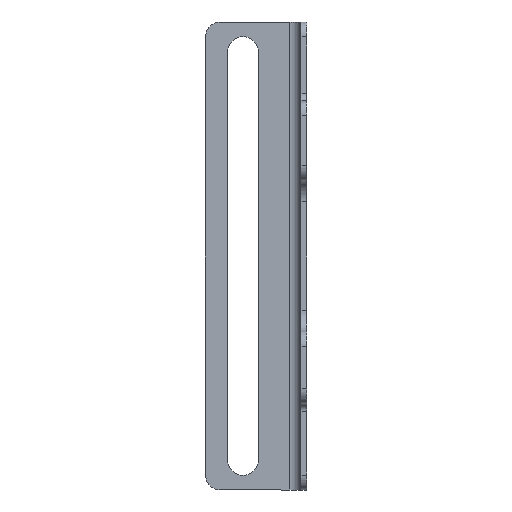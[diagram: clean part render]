
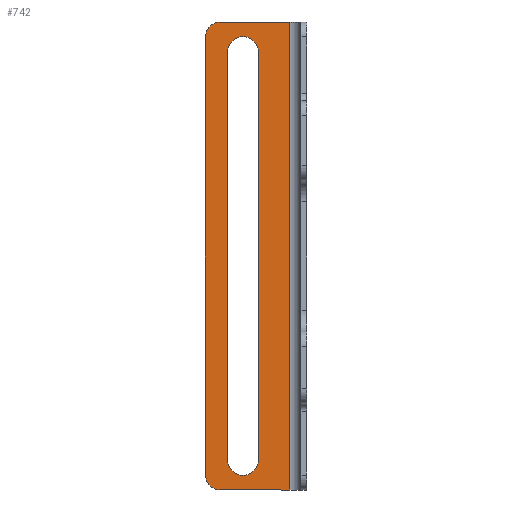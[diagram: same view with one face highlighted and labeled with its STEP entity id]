
A CAD part, left-side view. The second image highlights one B-rep face of the part: STEP entity #742.
In plain terms, the highlighted planar face has unit normal (-1, 0, 0).
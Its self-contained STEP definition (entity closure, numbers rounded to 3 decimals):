
#20 = AXIS2_PLACEMENT_3D ( 'NONE', #265, #1033, #370 ) ;
#25 = EDGE_CURVE ( 'NONE', #1348, #1026, #1075, .T. ) ;
#84 = LINE ( 'NONE', #568, #1228 ) ;
#102 = VERTEX_POINT ( 'NONE', #984 ) ;
#118 = VERTEX_POINT ( 'NONE', #874 ) ;
#126 = DIRECTION ( 'NONE',  ( -1., 0., 0. ) ) ;
#135 = CARTESIAN_POINT ( 'NONE',  ( 28.5, 23., 125. ) ) ;
#141 = EDGE_CURVE ( 'NONE', #1211, #118, #200, .T. ) ;
#165 = VECTOR ( 'NONE', #1116, 1000. ) ;
#195 = VERTEX_POINT ( 'NONE', #679 ) ;
#200 = CIRCLE ( 'NONE', #799, 4. ) ;
#222 = ORIENTED_EDGE ( 'NONE', *, *, #343, .F. ) ;
#232 = DIRECTION ( 'NONE',  ( 0., 0., -1. ) ) ;
#248 = VERTEX_POINT ( 'NONE', #1395 ) ;
#251 = VECTOR ( 'NONE', #689, 1000. ) ;
#265 = CARTESIAN_POINT ( 'NONE',  ( 28.5, 23., 121. ) ) ;
#309 = DIRECTION ( 'NONE',  ( -1., 0., 0. ) ) ;
#312 = DIRECTION ( 'NONE',  ( -1., 0., 0. ) ) ;
#324 = CIRCLE ( 'NONE', #1170, 4.1 ) ;
#343 = EDGE_CURVE ( 'NONE', #102, #822, #324, .T. ) ;
#355 = EDGE_CURVE ( 'NONE', #195, #942, #607, .T. ) ;
#365 = FACE_OUTER_BOUND ( 'NONE', #1397, .T. ) ;
#370 = DIRECTION ( 'NONE',  ( 0., 1., 0. ) ) ;
#373 = ORIENTED_EDGE ( 'NONE', *, *, #355, .F. ) ;
#404 = EDGE_LOOP ( 'NONE', ( #1154, #373, #1031, #222, #1357 ) ) ;
#407 = VECTOR ( 'NONE', #1299, 1000. ) ;
#439 = ORIENTED_EDGE ( 'NONE', *, *, #1151, .T. ) ;
#444 = VECTOR ( 'NONE', #563, 1000. ) ;
#451 = LINE ( 'NONE', #552, #165 ) ;
#452 = CARTESIAN_POINT ( 'NONE',  ( 28.5, 4.5, 125. ) ) ;
#534 = LINE ( 'NONE', #586, #251 ) ;
#539 = ORIENTED_EDGE ( 'NONE', *, *, #700, .F. ) ;
#540 = CARTESIAN_POINT ( 'NONE',  ( 28.5, 12.9, 8. ) ) ;
#552 = CARTESIAN_POINT ( 'NONE',  ( 28.5, 12.9, 8. ) ) ;
#563 = DIRECTION ( 'NONE',  ( 0., 0., -1. ) ) ;
#568 = CARTESIAN_POINT ( 'NONE',  ( 28.5, 4.5, 125. ) ) ;
#572 = ORIENTED_EDGE ( 'NONE', *, *, #141, .T. ) ;
#580 = DIRECTION ( 'NONE',  ( 0., 1., 0. ) ) ;
#586 = CARTESIAN_POINT ( 'NONE',  ( 28.5, 27., 125. ) ) ;
#607 = CIRCLE ( 'NONE', #1319, 4.1 ) ;
#630 = CARTESIAN_POINT ( 'NONE',  ( 28.5, 17., 8. ) ) ;
#656 = CARTESIAN_POINT ( 'NONE',  ( 28.5, 21.1, 8. ) ) ;
#657 = EDGE_CURVE ( 'NONE', #118, #1026, #1366, .T. ) ;
#665 = FACE_BOUND ( 'NONE', #404, .T. ) ;
#674 = CARTESIAN_POINT ( 'NONE',  ( 28.5, 4.5, 125. ) ) ;
#679 = CARTESIAN_POINT ( 'NONE',  ( 28.5, 12.9, 117. ) ) ;
#689 = DIRECTION ( 'NONE',  ( 0., 0., -1. ) ) ;
#700 = EDGE_CURVE ( 'NONE', #730, #1348, #84, .T. ) ;
#730 = VERTEX_POINT ( 'NONE', #135 ) ;
#739 = DIRECTION ( 'NONE',  ( 0., 1., 0. ) ) ;
#742 = ADVANCED_FACE ( 'NONE', ( #665, #365 ), #1136, .F. ) ;
#766 = CARTESIAN_POINT ( 'NONE',  ( 28.5, 4.5, 0. ) ) ;
#784 = CARTESIAN_POINT ( 'NONE',  ( 28.5, 17., 8. ) ) ;
#799 = AXIS2_PLACEMENT_3D ( 'NONE', #963, #309, #1083 ) ;
#822 = VERTEX_POINT ( 'NONE', #540 ) ;
#874 = CARTESIAN_POINT ( 'NONE',  ( 28.5, 23., 0. ) ) ;
#885 = CARTESIAN_POINT ( 'NONE',  ( 28.5, 4.5, 125. ) ) ;
#891 = DIRECTION ( 'NONE',  ( 0., 1., 0. ) ) ;
#942 = VERTEX_POINT ( 'NONE', #1150 ) ;
#963 = CARTESIAN_POINT ( 'NONE',  ( 28.5, 23., 4. ) ) ;
#966 = CARTESIAN_POINT ( 'NONE',  ( 28.5, 17., 117. ) ) ;
#984 = CARTESIAN_POINT ( 'NONE',  ( 28.5, 17., 3.9 ) ) ;
#1015 = CIRCLE ( 'NONE', #1256, 4.1 ) ;
#1026 = VERTEX_POINT ( 'NONE', #766 ) ;
#1031 = ORIENTED_EDGE ( 'NONE', *, *, #1352, .F. ) ;
#1032 = ORIENTED_EDGE ( 'NONE', *, *, #657, .T. ) ;
#1033 = DIRECTION ( 'NONE',  ( -1., 0., 0. ) ) ;
#1043 = VECTOR ( 'NONE', #232, 1000. ) ;
#1055 = VERTEX_POINT ( 'NONE', #656 ) ;
#1075 = LINE ( 'NONE', #452, #444 ) ;
#1083 = DIRECTION ( 'NONE',  ( 0., 1., 0. ) ) ;
#1084 = DIRECTION ( 'NONE',  ( 0., 1., 0. ) ) ;
#1116 = DIRECTION ( 'NONE',  ( 0., 0., 1. ) ) ;
#1125 = CIRCLE ( 'NONE', #20, 4. ) ;
#1136 = PLANE ( 'NONE',  #1254 ) ;
#1150 = CARTESIAN_POINT ( 'NONE',  ( 28.5, 21.1, 117. ) ) ;
#1151 = EDGE_CURVE ( 'NONE', #248, #1211, #534, .T. ) ;
#1154 = ORIENTED_EDGE ( 'NONE', *, *, #1345, .F. ) ;
#1155 = CARTESIAN_POINT ( 'NONE',  ( 28.5, 27., 4. ) ) ;
#1156 = EDGE_CURVE ( 'NONE', #730, #248, #1125, .T. ) ;
#1170 = AXIS2_PLACEMENT_3D ( 'NONE', #630, #1418, #739 ) ;
#1189 = CARTESIAN_POINT ( 'NONE',  ( 28.5, 4.5, 0. ) ) ;
#1211 = VERTEX_POINT ( 'NONE', #1155 ) ;
#1228 = VECTOR ( 'NONE', #1349, 1000. ) ;
#1247 = DIRECTION ( 'NONE',  ( 1., 0., 0. ) ) ;
#1254 = AXIS2_PLACEMENT_3D ( 'NONE', #674, #1247, #580 ) ;
#1256 = AXIS2_PLACEMENT_3D ( 'NONE', #784, #126, #891 ) ;
#1299 = DIRECTION ( 'NONE',  ( 0., -1., 0. ) ) ;
#1319 = AXIS2_PLACEMENT_3D ( 'NONE', #966, #312, #1084 ) ;
#1331 = ORIENTED_EDGE ( 'NONE', *, *, #25, .F. ) ;
#1333 = CARTESIAN_POINT ( 'NONE',  ( 28.5, 21.1, 117. ) ) ;
#1345 = EDGE_CURVE ( 'NONE', #942, #1055, #1377, .T. ) ;
#1348 = VERTEX_POINT ( 'NONE', #885 ) ;
#1349 = DIRECTION ( 'NONE',  ( 0., -1., 0. ) ) ;
#1352 = EDGE_CURVE ( 'NONE', #822, #195, #451, .T. ) ;
#1357 = ORIENTED_EDGE ( 'NONE', *, *, #1386, .F. ) ;
#1366 = LINE ( 'NONE', #1189, #407 ) ;
#1377 = LINE ( 'NONE', #1333, #1043 ) ;
#1386 = EDGE_CURVE ( 'NONE', #1055, #102, #1015, .T. ) ;
#1395 = CARTESIAN_POINT ( 'NONE',  ( 28.5, 27., 121. ) ) ;
#1397 = EDGE_LOOP ( 'NONE', ( #539, #1436, #439, #572, #1032, #1331 ) ) ;
#1418 = DIRECTION ( 'NONE',  ( -1., 0., 0. ) ) ;
#1436 = ORIENTED_EDGE ( 'NONE', *, *, #1156, .T. ) ;
